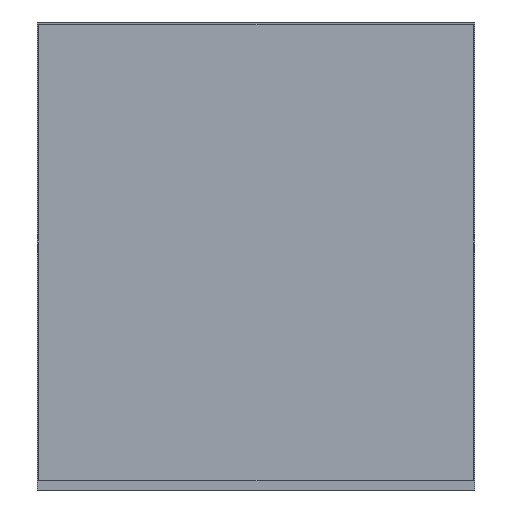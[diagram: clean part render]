
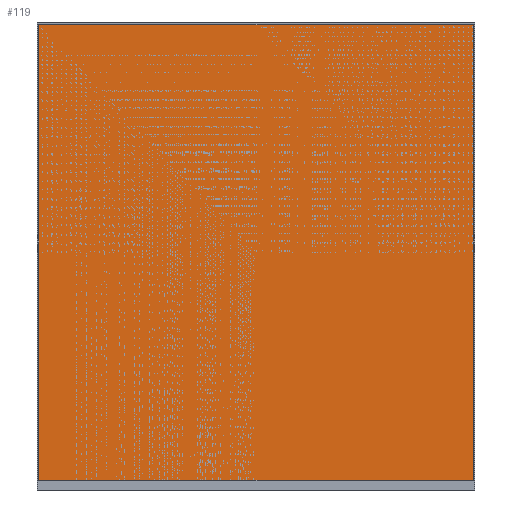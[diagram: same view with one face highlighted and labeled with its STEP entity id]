
A CAD part, left-side view. The second image highlights one B-rep face of the part: STEP entity #119.
In plain terms, the highlighted planar face has unit normal (-1, 0, 0).
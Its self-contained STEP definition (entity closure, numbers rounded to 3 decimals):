
#21 = EDGE_CURVE('',#22,#24,#26,.T.);
#22 = VERTEX_POINT('',#23);
#23 = CARTESIAN_POINT('',(-1.6,-1.25,0.08));
#24 = VERTEX_POINT('',#25);
#25 = CARTESIAN_POINT('',(-1.6,-1.25,2.7));
#26 = LINE('',#27,#28);
#27 = CARTESIAN_POINT('',(-1.6,-1.25,0.08));
#28 = VECTOR('',#29,1.);
#29 = DIRECTION('',(0.,0.,1.));
#94 = VERTEX_POINT('',#95);
#95 = CARTESIAN_POINT('',(-1.6,1.25,2.7));
#101 = EDGE_CURVE('',#102,#94,#104,.T.);
#102 = VERTEX_POINT('',#103);
#103 = CARTESIAN_POINT('',(-1.6,1.25,0.08));
#104 = LINE('',#105,#106);
#105 = CARTESIAN_POINT('',(-1.6,1.25,0.08));
#106 = VECTOR('',#107,1.);
#107 = DIRECTION('',(0.,0.,1.));
#119 = ADVANCED_FACE('',(#120),#136,.F.);
#120 = FACE_BOUND('',#121,.F.);
#121 = EDGE_LOOP('',(#122,#123,#129,#130));
#122 = ORIENTED_EDGE('',*,*,#101,.T.);
#123 = ORIENTED_EDGE('',*,*,#124,.T.);
#124 = EDGE_CURVE('',#94,#24,#125,.T.);
#125 = LINE('',#126,#127);
#126 = CARTESIAN_POINT('',(-1.6,1.25,2.7));
#127 = VECTOR('',#128,1.);
#128 = DIRECTION('',(0.,-1.,0.));
#129 = ORIENTED_EDGE('',*,*,#21,.F.);
#130 = ORIENTED_EDGE('',*,*,#131,.F.);
#131 = EDGE_CURVE('',#102,#22,#132,.T.);
#132 = LINE('',#133,#134);
#133 = CARTESIAN_POINT('',(-1.6,1.25,0.08));
#134 = VECTOR('',#135,1.);
#135 = DIRECTION('',(0.,-1.,0.));
#136 = PLANE('',#137);
#137 = AXIS2_PLACEMENT_3D('',#138,#139,#140);
#138 = CARTESIAN_POINT('',(-1.6,1.25,0.08));
#139 = DIRECTION('',(1.,0.,-0.));
#140 = DIRECTION('',(0.,-1.,0.));
